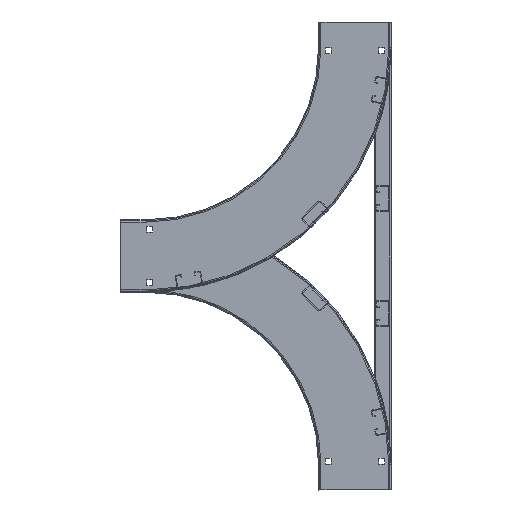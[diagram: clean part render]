
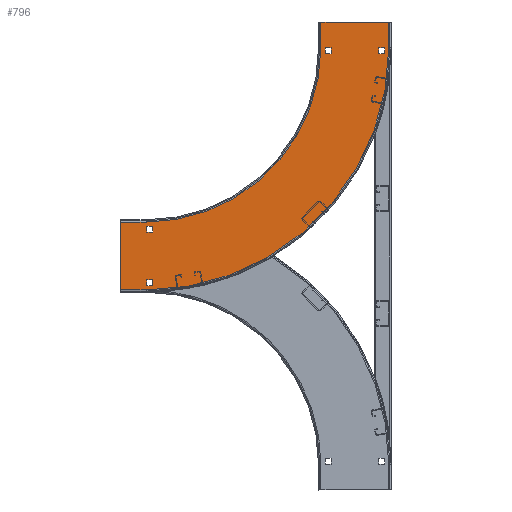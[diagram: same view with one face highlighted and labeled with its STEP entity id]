
A CAD part, left-side view. The second image highlights one B-rep face of the part: STEP entity #796.
In plain terms, the highlighted planar face has unit normal (-1, 0, 0).
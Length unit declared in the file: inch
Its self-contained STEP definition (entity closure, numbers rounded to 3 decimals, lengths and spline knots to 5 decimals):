
#1=DIRECTION('',(0.,0.,-1.));
#2=VECTOR('',#1,4.718);
#3=CARTESIAN_POINT('',(0.,-1.75,16.88));
#4=LINE('',#3,#2);
#5=DIRECTION('',(0.,1.,0.));
#6=VECTOR('',#5,4.718);
#7=CARTESIAN_POINT('',(0.,12.162,-1.75));
#8=LINE('',#7,#6);
#9=DIRECTION('',(0.,0.,-1.));
#10=VECTOR('',#9,0.41);
#11=CARTESIAN_POINT('',(0.,16.5885,0.455));
#12=LINE('',#11,#10);
#13=DIRECTION('',(0.,-1.,0.));
#14=VECTOR('',#13,0.41);
#15=CARTESIAN_POINT('',(0.,16.5885,0.045));
#16=LINE('',#15,#14);
#17=DIRECTION('',(0.,0.,1.));
#18=VECTOR('',#17,0.41);
#19=CARTESIAN_POINT('',(0.,16.1785,0.045));
#20=LINE('',#19,#18);
#21=DIRECTION('',(0.,1.,0.));
#22=VECTOR('',#21,0.41);
#23=CARTESIAN_POINT('',(0.,16.1785,0.455));
#24=LINE('',#23,#22);
#25=DIRECTION('',(0.,1.,0.));
#26=VECTOR('',#25,0.41);
#27=CARTESIAN_POINT('',(0.,12.4535,0.455));
#28=LINE('',#27,#26);
#29=DIRECTION('',(0.,0.,-1.));
#30=VECTOR('',#29,0.41);
#31=CARTESIAN_POINT('',(0.,12.8635,0.455));
#32=LINE('',#31,#30);
#33=DIRECTION('',(0.,-1.,0.));
#34=VECTOR('',#33,0.41);
#35=CARTESIAN_POINT('',(0.,12.8635,0.045));
#36=LINE('',#35,#34);
#37=DIRECTION('',(0.,0.,1.));
#38=VECTOR('',#37,0.41);
#39=CARTESIAN_POINT('',(0.,12.4535,0.045));
#40=LINE('',#39,#38);
#41=DIRECTION('',(0.,0.,-1.));
#42=VECTOR('',#41,0.41);
#43=CARTESIAN_POINT('',(0.,0.455,12.86111));
#44=LINE('',#43,#42);
#45=DIRECTION('',(0.,-1.,0.));
#46=VECTOR('',#45,0.41);
#47=CARTESIAN_POINT('',(0.,0.455,12.45111));
#48=LINE('',#47,#46);
#49=DIRECTION('',(0.,0.,1.));
#50=VECTOR('',#49,0.41);
#51=CARTESIAN_POINT('',(0.,0.045,12.45111));
#52=LINE('',#51,#50);
#53=DIRECTION('',(0.,1.,0.));
#54=VECTOR('',#53,0.41);
#55=CARTESIAN_POINT('',(0.,0.045,12.86111));
#56=LINE('',#55,#54);
#57=DIRECTION('',(0.,0.,1.));
#58=VECTOR('',#57,0.41);
#59=CARTESIAN_POINT('',(0.,0.045,16.17665));
#60=LINE('',#59,#58);
#61=DIRECTION('',(0.,1.,0.));
#62=VECTOR('',#61,0.41);
#63=CARTESIAN_POINT('',(0.,0.045,16.58665));
#64=LINE('',#63,#62);
#65=DIRECTION('',(0.,0.,-1.));
#66=VECTOR('',#65,0.41);
#67=CARTESIAN_POINT('',(0.,0.455,16.58665));
#68=LINE('',#67,#66);
#69=DIRECTION('',(0.,-1.,0.));
#70=VECTOR('',#69,0.41);
#71=CARTESIAN_POINT('',(0.,0.455,16.17665));
#72=LINE('',#71,#70);
#73=DIRECTION('',(0.,0.,1.));
#74=VECTOR('',#73,1.75);
#75=CARTESIAN_POINT('',(0.,16.88,-1.75));
#76=LINE('',#75,#74);
#114=DIRECTION('',(0.,0.,-1.));
#115=VECTOR('',#114,1.75);
#116=CARTESIAN_POINT('',(0.,12.162,0.));
#117=LINE('',#116,#115);
#123=CARTESIAN_POINT('',(0.,0.,0.));
#124=DIRECTION('',(-1.,0.,0.));
#125=DIRECTION('',(0.,0.,1.));
#126=AXIS2_PLACEMENT_3D('',#123,#124,#125);
#128=DIRECTION('',(0.,1.,0.));
#129=VECTOR('',#128,1.75);
#130=CARTESIAN_POINT('',(0.,-1.75,12.162));
#131=LINE('',#130,#129);
#169=DIRECTION('',(0.,-1.,0.));
#170=VECTOR('',#169,1.75);
#171=CARTESIAN_POINT('',(0.,0.,16.88));
#172=LINE('',#171,#170);
#178=CARTESIAN_POINT('',(0.,0.,0.));
#179=DIRECTION('',(1.,0.,0.));
#180=DIRECTION('',(0.,1.,0.));
#181=AXIS2_PLACEMENT_3D('',#178,#179,#180);
#573=CARTESIAN_POINT('',(0.,-1.75,12.162));
#575=VERTEX_POINT('',#573);
#579=CARTESIAN_POINT('',(0.,0.,12.162));
#581=VERTEX_POINT('',#579);
#585=CARTESIAN_POINT('',(0.,12.162,0.));
#587=VERTEX_POINT('',#585);
#591=CARTESIAN_POINT('',(0.,12.162,-1.75));
#593=VERTEX_POINT('',#591);
#621=CARTESIAN_POINT('',(0.,16.88,-1.75));
#622=VERTEX_POINT('',#621);
#623=CARTESIAN_POINT('',(0.,-1.75,16.88));
#624=VERTEX_POINT('',#623);
#629=CARTESIAN_POINT('',(0.,16.88,0.));
#631=VERTEX_POINT('',#629);
#635=CARTESIAN_POINT('',(0.,0.,16.88));
#637=VERTEX_POINT('',#635);
#669=CARTESIAN_POINT('',(0.,16.5885,0.455));
#670=CARTESIAN_POINT('',(0.,16.5885,0.045));
#671=VERTEX_POINT('',#669);
#672=VERTEX_POINT('',#670);
#673=CARTESIAN_POINT('',(0.,16.1785,0.045));
#674=VERTEX_POINT('',#673);
#675=CARTESIAN_POINT('',(0.,16.1785,0.455));
#676=VERTEX_POINT('',#675);
#677=CARTESIAN_POINT('',(0.,12.4535,0.455));
#678=CARTESIAN_POINT('',(0.,12.8635,0.455));
#679=VERTEX_POINT('',#677);
#680=VERTEX_POINT('',#678);
#681=CARTESIAN_POINT('',(0.,12.8635,0.045));
#682=VERTEX_POINT('',#681);
#683=CARTESIAN_POINT('',(0.,12.4535,0.045));
#684=VERTEX_POINT('',#683);
#701=CARTESIAN_POINT('',(0.,0.455,12.86111));
#702=CARTESIAN_POINT('',(0.,0.455,12.45111));
#703=VERTEX_POINT('',#701);
#704=VERTEX_POINT('',#702);
#705=CARTESIAN_POINT('',(0.,0.045,12.45111));
#706=VERTEX_POINT('',#705);
#707=CARTESIAN_POINT('',(0.,0.045,12.86111));
#708=VERTEX_POINT('',#707);
#709=CARTESIAN_POINT('',(0.,0.045,16.17665));
#710=CARTESIAN_POINT('',(0.,0.045,16.58665));
#711=VERTEX_POINT('',#709);
#712=VERTEX_POINT('',#710);
#713=CARTESIAN_POINT('',(0.,0.455,16.58665));
#714=VERTEX_POINT('',#713);
#715=CARTESIAN_POINT('',(0.,0.455,16.17665));
#716=VERTEX_POINT('',#715);
#733=CARTESIAN_POINT('',(0.,0.,0.));
#734=DIRECTION('',(1.,0.,0.));
#735=DIRECTION('',(0.,0.,-1.));
#736=AXIS2_PLACEMENT_3D('',#733,#734,#735);
#737=PLANE('',#736);
#739=ORIENTED_EDGE('',*,*,#738,.T.);
#741=ORIENTED_EDGE('',*,*,#740,.T.);
#743=ORIENTED_EDGE('',*,*,#742,.T.);
#745=ORIENTED_EDGE('',*,*,#744,.T.);
#747=ORIENTED_EDGE('',*,*,#746,.T.);
#749=ORIENTED_EDGE('',*,*,#748,.T.);
#751=ORIENTED_EDGE('',*,*,#750,.T.);
#753=ORIENTED_EDGE('',*,*,#752,.T.);
#754=EDGE_LOOP('',(#739,#741,#743,#745,#747,#749,#751,#753));
#755=FACE_OUTER_BOUND('',#754,.F.);
#757=ORIENTED_EDGE('',*,*,#756,.T.);
#759=ORIENTED_EDGE('',*,*,#758,.T.);
#761=ORIENTED_EDGE('',*,*,#760,.T.);
#763=ORIENTED_EDGE('',*,*,#762,.T.);
#764=EDGE_LOOP('',(#757,#759,#761,#763));
#765=FACE_BOUND('',#764,.F.);
#767=ORIENTED_EDGE('',*,*,#766,.T.);
#769=ORIENTED_EDGE('',*,*,#768,.T.);
#771=ORIENTED_EDGE('',*,*,#770,.T.);
#773=ORIENTED_EDGE('',*,*,#772,.T.);
#774=EDGE_LOOP('',(#767,#769,#771,#773));
#775=FACE_BOUND('',#774,.F.);
#777=ORIENTED_EDGE('',*,*,#776,.T.);
#779=ORIENTED_EDGE('',*,*,#778,.T.);
#781=ORIENTED_EDGE('',*,*,#780,.T.);
#783=ORIENTED_EDGE('',*,*,#782,.T.);
#784=EDGE_LOOP('',(#777,#779,#781,#783));
#785=FACE_BOUND('',#784,.F.);
#787=ORIENTED_EDGE('',*,*,#786,.T.);
#789=ORIENTED_EDGE('',*,*,#788,.T.);
#791=ORIENTED_EDGE('',*,*,#790,.T.);
#793=ORIENTED_EDGE('',*,*,#792,.T.);
#794=EDGE_LOOP('',(#787,#789,#791,#793));
#795=FACE_BOUND('',#794,.F.);
#796=ADVANCED_FACE('',(#755,#765,#775,#785,#795),#737,.F.);
#127=CIRCLE('',#126,12.162);
#182=CIRCLE('',#181,16.88);
#738=EDGE_CURVE('',#622,#631,#76,.T.);
#740=EDGE_CURVE('',#631,#637,#182,.T.);
#742=EDGE_CURVE('',#637,#624,#172,.T.);
#744=EDGE_CURVE('',#624,#575,#4,.T.);
#746=EDGE_CURVE('',#575,#581,#131,.T.);
#748=EDGE_CURVE('',#581,#587,#127,.T.);
#750=EDGE_CURVE('',#587,#593,#117,.T.);
#752=EDGE_CURVE('',#593,#622,#8,.T.);
#756=EDGE_CURVE('',#671,#672,#12,.T.);
#758=EDGE_CURVE('',#672,#674,#16,.T.);
#760=EDGE_CURVE('',#674,#676,#20,.T.);
#762=EDGE_CURVE('',#676,#671,#24,.T.);
#766=EDGE_CURVE('',#679,#680,#28,.T.);
#768=EDGE_CURVE('',#680,#682,#32,.T.);
#770=EDGE_CURVE('',#682,#684,#36,.T.);
#772=EDGE_CURVE('',#684,#679,#40,.T.);
#776=EDGE_CURVE('',#703,#704,#44,.T.);
#778=EDGE_CURVE('',#704,#706,#48,.T.);
#780=EDGE_CURVE('',#706,#708,#52,.T.);
#782=EDGE_CURVE('',#708,#703,#56,.T.);
#786=EDGE_CURVE('',#711,#712,#60,.T.);
#788=EDGE_CURVE('',#712,#714,#64,.T.);
#790=EDGE_CURVE('',#714,#716,#68,.T.);
#792=EDGE_CURVE('',#716,#711,#72,.T.);
